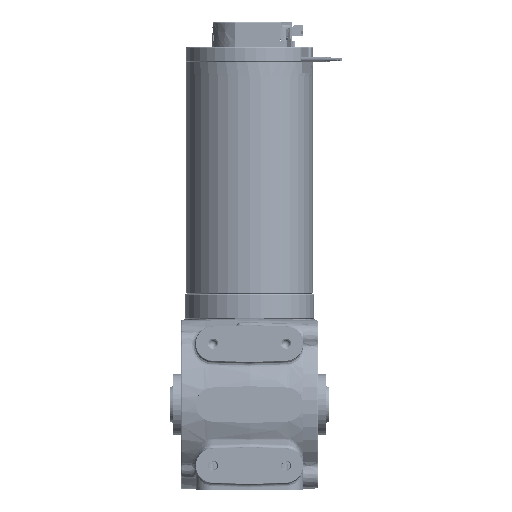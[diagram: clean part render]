
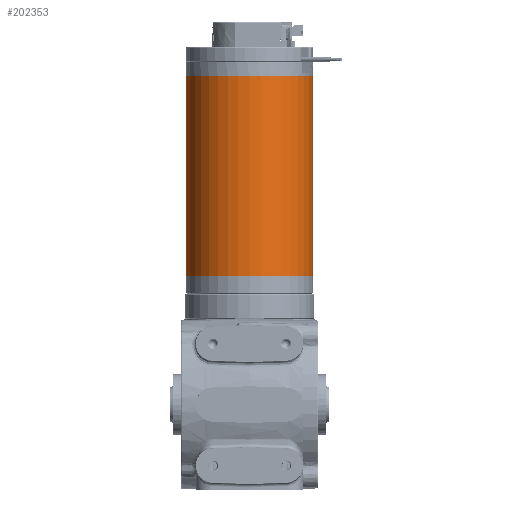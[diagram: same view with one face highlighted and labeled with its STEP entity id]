
A CAD part, front view. The second image highlights one B-rep face of the part: STEP entity #202353.
In plain terms, the highlighted cylindrical face has radius 26 mm (diameter 52 mm), a partial arc.
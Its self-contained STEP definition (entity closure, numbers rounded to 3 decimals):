
#4050 = AXIS2_PLACEMENT_3D ( 'NONE', #258789, #360614, #48202 ) ;
#4328 = EDGE_CURVE ( 'NONE', #316359, #31170, #328262, .T. ) ;
#10618 = CARTESIAN_POINT ( 'NONE',  ( 59.757, 20.848, 107.564 ) ) ;
#12872 = DIRECTION ( 'NONE',  ( 0., 0., -1. ) ) ;
#15815 = CARTESIAN_POINT ( 'NONE',  ( 85.757, 20.848, 189.564 ) ) ;
#18630 = AXIS2_PLACEMENT_3D ( 'NONE', #56489, #373320, #400494 ) ;
#31170 = VERTEX_POINT ( 'NONE', #261182 ) ;
#48202 = DIRECTION ( 'NONE',  ( 1., 0., 0. ) ) ;
#56489 = CARTESIAN_POINT ( 'NONE',  ( 59.757, 20.848, 189.564 ) ) ;
#84661 = CARTESIAN_POINT ( 'NONE',  ( 33.757, 20.848, 107.564 ) ) ;
#89090 = CARTESIAN_POINT ( 'NONE',  ( 33.757, 20.848, 189.564 ) ) ;
#112125 = EDGE_CURVE ( 'NONE', #31170, #418894, #214908, .T. ) ;
#127023 = EDGE_LOOP ( 'NONE', ( #421433, #280030, #311683, #184279 ) ) ;
#182066 = VECTOR ( 'NONE', #432377, 1000. ) ;
#184279 = ORIENTED_EDGE ( 'NONE', *, *, #4328, .F. ) ;
#202353 = ADVANCED_FACE ( 'NONE', ( #281648 ), #272744, .T. ) ;
#214908 = CIRCLE ( 'NONE', #381041, 26. ) ;
#216071 = LINE ( 'NONE', #254588, #399957 ) ;
#254588 = CARTESIAN_POINT ( 'NONE',  ( 33.757, 20.848, 189.564 ) ) ;
#258789 = CARTESIAN_POINT ( 'NONE',  ( 59.757, 20.848, 189.564 ) ) ;
#261182 = CARTESIAN_POINT ( 'NONE',  ( 85.757, 20.848, 107.564 ) ) ;
#263611 = CIRCLE ( 'NONE', #18630, 26. ) ;
#272744 = CYLINDRICAL_SURFACE ( 'NONE', #4050, 26. ) ;
#280030 = ORIENTED_EDGE ( 'NONE', *, *, #393699, .T. ) ;
#281648 = FACE_OUTER_BOUND ( 'NONE', #127023, .T. ) ;
#288555 = DIRECTION ( 'NONE',  ( 0., 0., -1. ) ) ;
#294329 = CARTESIAN_POINT ( 'NONE',  ( 85.757, 20.848, 189.564 ) ) ;
#311683 = ORIENTED_EDGE ( 'NONE', *, *, #112125, .F. ) ;
#316242 = DIRECTION ( 'NONE',  ( 1., 0., 0. ) ) ;
#316359 = VERTEX_POINT ( 'NONE', #15815 ) ;
#328262 = LINE ( 'NONE', #294329, #182066 ) ;
#350996 = VERTEX_POINT ( 'NONE', #89090 ) ;
#360614 = DIRECTION ( 'NONE',  ( 0., 0., -1. ) ) ;
#373320 = DIRECTION ( 'NONE',  ( 0., 0., -1. ) ) ;
#381041 = AXIS2_PLACEMENT_3D ( 'NONE', #10618, #12872, #316242 ) ;
#393699 = EDGE_CURVE ( 'NONE', #350996, #418894, #216071, .T. ) ;
#399957 = VECTOR ( 'NONE', #288555, 1000. ) ;
#400494 = DIRECTION ( 'NONE',  ( 1., 0., 0. ) ) ;
#418894 = VERTEX_POINT ( 'NONE', #84661 ) ;
#421433 = ORIENTED_EDGE ( 'NONE', *, *, #441970, .T. ) ;
#432377 = DIRECTION ( 'NONE',  ( 0., 0., -1. ) ) ;
#441970 = EDGE_CURVE ( 'NONE', #316359, #350996, #263611, .T. ) ;
